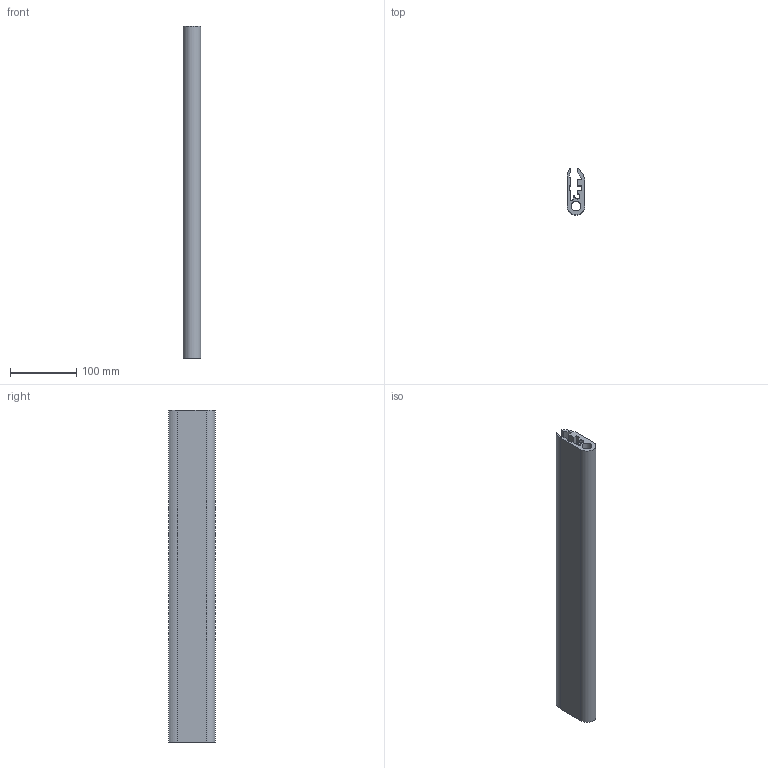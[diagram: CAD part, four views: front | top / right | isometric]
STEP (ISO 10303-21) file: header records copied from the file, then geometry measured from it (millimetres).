
FILE_DESCRIPTION (( 'STEP AP214' ), '1' );
FILE_NAME ('A40753L.step', '2024-12-03T16:12:37', ( '' ), ( '' ), 'SwSTEP 2.0', 'SolidWorks 2023', '' );
FILE_SCHEMA (( 'AUTOMOTIVE_DESIGN' ));
Length unit declared in the file: millimetre
Products named in the file (1): A40753L
Bounding box: 27 x 70 x 500 mm (x, y, z)
Volume: 470995.2 mm3; surface area: 179352.5 mm2
Topology: 1 solids, 1 shells, 34 faces, 96 edges, 64 vertices
Faces by surface type: plane 23, cylinder 11
Full cylindrical faces by diameter (mm): 15 x1
Entity records: 1124 total; most frequent: CARTESIAN_POINT 194, ORIENTED_EDGE 190, DIRECTION 187, EDGE_CURVE 95, VECTOR 73, LINE 73, VERTEX_POINT 64, AXIS2_PLACEMENT_3D 57
